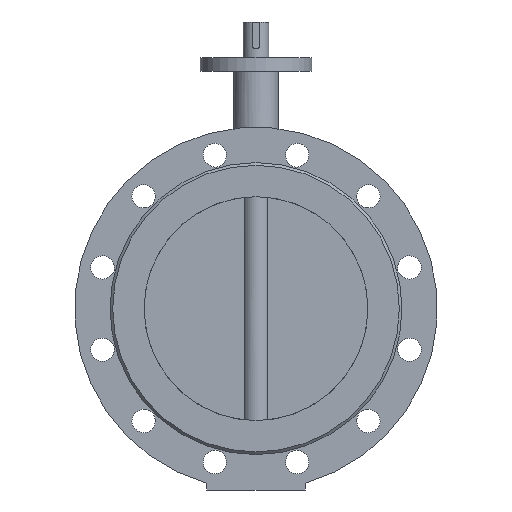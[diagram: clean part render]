
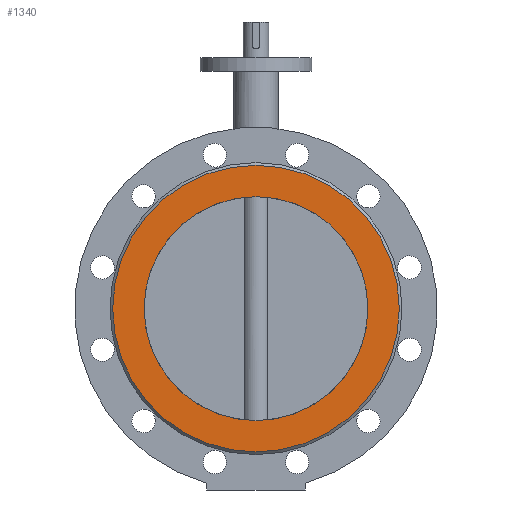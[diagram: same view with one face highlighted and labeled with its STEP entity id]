
A CAD part, front view. The second image highlights one B-rep face of the part: STEP entity #1340.
In plain terms, the highlighted planar face has unit normal (0, -1, 0).
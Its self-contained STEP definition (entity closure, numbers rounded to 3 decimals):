
#1340=ADVANCED_FACE('',(#2638,#2640),#2642,.T.);
#2638=FACE_BOUND('',#2639,.T.);
#2639=EDGE_LOOP('',(#3574));
#2640=FACE_BOUND('',#2641,.T.);
#2641=EDGE_LOOP('',(#3575));
#2642=PLANE('',#2643);
#2643=AXIS2_PLACEMENT_3D('',#2644,#2645,#2646);
#2644=CARTESIAN_POINT('',(0.,-82.5,0.));
#2645=DIRECTION('',(0.,-1.,0.));
#2646=DIRECTION('',(0.,0.,1.));
#3574=ORIENTED_EDGE('',*,*,#4038,.F.);
#3575=ORIENTED_EDGE('',*,*,#4041,.T.);
#4038=EDGE_CURVE('',#4745,#4745,#4746,.T.);
#4041=EDGE_CURVE('',#4751,#4751,#4752,.T.);
#4745=VERTEX_POINT('',#6752);
#4746=CIRCLE('',#6753,160.);
#4751=VERTEX_POINT('',#6767);
#4752=CIRCLE('',#6768,125.);
#6752=CARTESIAN_POINT('',(0.,-82.5,160.));
#6753=AXIS2_PLACEMENT_3D('',#6754,#6755,#6756);
#6754=CARTESIAN_POINT('',(0.,-82.5,0.));
#6755=DIRECTION('',(0.,1.,0.));
#6756=DIRECTION('',(0.,0.,1.));
#6767=CARTESIAN_POINT('',(0.,-82.5,125.));
#6768=AXIS2_PLACEMENT_3D('',#6769,#6770,#6771);
#6769=CARTESIAN_POINT('',(0.,-82.5,0.));
#6770=DIRECTION('',(0.,1.,0.));
#6771=DIRECTION('',(0.,0.,1.));
